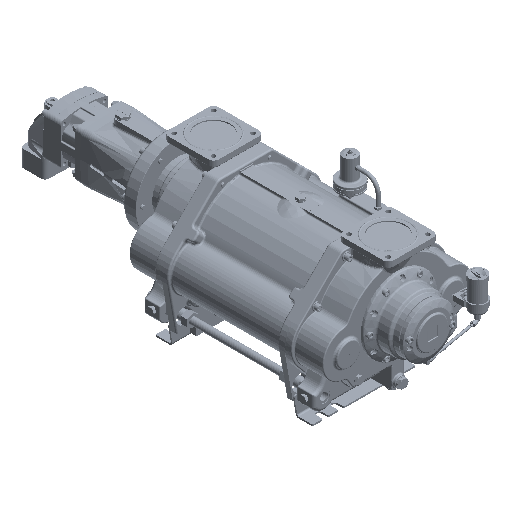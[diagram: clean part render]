
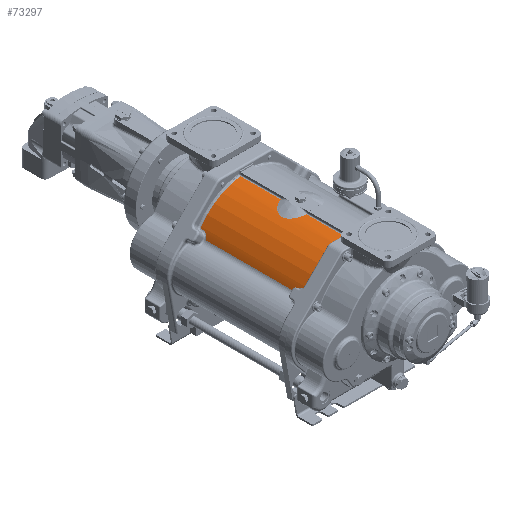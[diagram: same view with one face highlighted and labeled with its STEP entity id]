
A CAD part, isometric view. The second image highlights one B-rep face of the part: STEP entity #73297.
In plain terms, the highlighted cylindrical face has radius 180.5 mm (diameter 361 mm), a partial arc.
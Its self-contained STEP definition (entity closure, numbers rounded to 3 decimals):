
#5325=FACE_OUTER_BOUND('',#9757,.T.);
#9757=EDGE_LOOP('',(#48093,#48094,#48095,#48096,#48097,#48098,#48099,#48100,
#48101,#48102,#48103,#48104,#48105,#48106));
#14662=B_SPLINE_CURVE_WITH_KNOTS('',3,(#107119,#107120,#107121,#107122,
#107123,#107124,#107125,#107126,#107127,#107128,#107129,#107130,#107131),
 .UNSPECIFIED.,.F.,.F.,(4,1,1,1,1,1,1,1,1,1,4),(-12.376,-10.608,
-8.84,-7.956,-7.072,-6.483,
-5.304,-4.715,-3.536,-1.768,
0.),.UNSPECIFIED.);
#14663=B_SPLINE_CURVE_WITH_KNOTS('',3,(#107151,#107152,#107153,#107154,
#107155,#107156),.UNSPECIFIED.,.F.,.F.,(4,1,1,4),(-0.794,-0.567,
-0.34,0.),.UNSPECIFIED.);
#14664=B_SPLINE_CURVE_WITH_KNOTS('',3,(#107160,#107161,#107162,#107163,
#107164,#107165),.UNSPECIFIED.,.F.,.F.,(4,1,1,4),(0.,1.028,1.714,
2.399),.UNSPECIFIED.);
#14665=B_SPLINE_CURVE_WITH_KNOTS('',3,(#107173,#107174,#107175,#107176,
#107177,#107178,#107179),.UNSPECIFIED.,.F.,.F.,(4,1,1,1,4),(0.,0.686,
1.028,1.714,2.399),.UNSPECIFIED.);
#14666=B_SPLINE_CURVE_WITH_KNOTS('',3,(#107183,#107184,#107185,#107186,
#107187,#107188,#107189),.UNSPECIFIED.,.F.,.F.,(4,1,1,1,4),(-0.794,
-0.567,-0.34,-0.227,0.),
 .UNSPECIFIED.);
#16573=CIRCLE('',#79141,180.5);
#16574=CIRCLE('',#79142,180.5);
#16575=CIRCLE('',#79143,180.5);
#16576=CIRCLE('',#79144,180.5);
#20185=LINE('',#107143,#24914);
#20186=LINE('',#107147,#24915);
#20187=LINE('',#107158,#24916);
#20188=LINE('',#107169,#24917);
#20189=LINE('',#107181,#24918);
#24914=VECTOR('',#87132,10.);
#24915=VECTOR('',#87137,10.);
#24916=VECTOR('',#87140,10.);
#24917=VECTOR('',#87143,10.);
#24918=VECTOR('',#87146,10.);
#29766=VERTEX_POINT('',#107116);
#29767=VERTEX_POINT('',#107118);
#29769=VERTEX_POINT('',#107142);
#29770=VERTEX_POINT('',#107146);
#29771=VERTEX_POINT('',#107148);
#29772=VERTEX_POINT('',#107150);
#29773=VERTEX_POINT('',#107157);
#29774=VERTEX_POINT('',#107159);
#29775=VERTEX_POINT('',#107166);
#29776=VERTEX_POINT('',#107168);
#29777=VERTEX_POINT('',#107170);
#29778=VERTEX_POINT('',#107172);
#29779=VERTEX_POINT('',#107180);
#29780=VERTEX_POINT('',#107182);
#36915=EDGE_CURVE('',#29766,#29767,#14662,.T.);
#36921=EDGE_CURVE('',#29767,#29769,#20185,.T.);
#36923=EDGE_CURVE('',#29770,#29766,#20186,.T.);
#36924=EDGE_CURVE('',#29771,#29770,#16573,.T.);
#36925=EDGE_CURVE('',#29772,#29771,#14663,.T.);
#36926=EDGE_CURVE('',#29773,#29772,#20187,.T.);
#36927=EDGE_CURVE('',#29774,#29773,#14664,.T.);
#36928=EDGE_CURVE('',#29775,#29774,#16574,.T.);
#36929=EDGE_CURVE('',#29776,#29775,#20188,.T.);
#36930=EDGE_CURVE('',#29777,#29776,#16575,.T.);
#36931=EDGE_CURVE('',#29778,#29777,#14665,.T.);
#36932=EDGE_CURVE('',#29779,#29778,#20189,.T.);
#36933=EDGE_CURVE('',#29780,#29779,#14666,.T.);
#36934=EDGE_CURVE('',#29769,#29780,#16576,.T.);
#48093=ORIENTED_EDGE('',*,*,#36915,.F.);
#48094=ORIENTED_EDGE('',*,*,#36923,.F.);
#48095=ORIENTED_EDGE('',*,*,#36924,.F.);
#48096=ORIENTED_EDGE('',*,*,#36925,.F.);
#48097=ORIENTED_EDGE('',*,*,#36926,.F.);
#48098=ORIENTED_EDGE('',*,*,#36927,.F.);
#48099=ORIENTED_EDGE('',*,*,#36928,.F.);
#48100=ORIENTED_EDGE('',*,*,#36929,.F.);
#48101=ORIENTED_EDGE('',*,*,#36930,.F.);
#48102=ORIENTED_EDGE('',*,*,#36931,.F.);
#48103=ORIENTED_EDGE('',*,*,#36932,.F.);
#48104=ORIENTED_EDGE('',*,*,#36933,.F.);
#48105=ORIENTED_EDGE('',*,*,#36934,.F.);
#48106=ORIENTED_EDGE('',*,*,#36921,.F.);
#69515=CYLINDRICAL_SURFACE('',#79140,180.5);
#73297=ADVANCED_FACE('',(#5325),#69515,.T.);
#79140=AXIS2_PLACEMENT_3D('',#107145,#87135,#87136);
#79141=AXIS2_PLACEMENT_3D('',#107149,#87138,#87139);
#79142=AXIS2_PLACEMENT_3D('',#107167,#87141,#87142);
#79143=AXIS2_PLACEMENT_3D('',#107171,#87144,#87145);
#79144=AXIS2_PLACEMENT_3D('',#107190,#87147,#87148);
#87132=DIRECTION('',(0.,0.,-1.));
#87135=DIRECTION('center_axis',(0.,0.,
-1.));
#87136=DIRECTION('ref_axis',(-0.891,0.454,0.));
#87137=DIRECTION('',(0.,0.,-1.));
#87138=DIRECTION('center_axis',(0.,0.,
1.));
#87139=DIRECTION('ref_axis',(0.525,0.851,0.));
#87140=DIRECTION('',(0.,0.,1.));
#87141=DIRECTION('center_axis',(0.,0.,
1.));
#87142=DIRECTION('ref_axis',(0.89,0.456,0.));
#87143=DIRECTION('',(0.,0.,1.));
#87144=DIRECTION('center_axis',(0.,0.,
-1.));
#87145=DIRECTION('ref_axis',(0.89,0.456,0.));
#87146=DIRECTION('',(0.,0.,1.));
#87147=DIRECTION('center_axis',(0.,0.,
-1.));
#87148=DIRECTION('ref_axis',(0.525,0.851,0.));
#107116=CARTESIAN_POINT('',(22.624,179.077,41.985));
#107118=CARTESIAN_POINT('',(22.624,179.077,-41.985));
#107119=CARTESIAN_POINT('Ctrl Pts',(22.624,179.077,41.985));
#107120=CARTESIAN_POINT('Ctrl Pts',(28.152,178.378,40.358));
#107121=CARTESIAN_POINT('Ctrl Pts',(38.793,176.504,35.838));
#107122=CARTESIAN_POINT('Ctrl Pts',(49.975,173.518,26.651));
#107123=CARTESIAN_POINT('Ctrl Pts',(56.498,171.447,17.041));
#107124=CARTESIAN_POINT('Ctrl Pts',(59.357,170.465,9.751));
#107125=CARTESIAN_POINT('Ctrl Pts',(60.856,169.931,1.017));
#107126=CARTESIAN_POINT('Ctrl Pts',(60.17,170.181,-6.931));
#107127=CARTESIAN_POINT('Ctrl Pts',(56.969,171.287,-16.172));
#107128=CARTESIAN_POINT('Ctrl Pts',(50.726,173.316,-26.042));
#107129=CARTESIAN_POINT('Ctrl Pts',(38.789,176.506,-35.837));
#107130=CARTESIAN_POINT('Ctrl Pts',(28.152,178.378,-40.358));
#107131=CARTESIAN_POINT('Ctrl Pts',(22.624,179.077,-41.985));
#107142=CARTESIAN_POINT('',(22.624,179.077,-172.));
#107143=CARTESIAN_POINT('',(22.624,179.077,0.));
#107145=CARTESIAN_POINT('Origin',(0.,0.,0.));
#107146=CARTESIAN_POINT('',(22.624,179.077,172.));
#107147=CARTESIAN_POINT('',(22.624,179.077,0.));
#107148=CARTESIAN_POINT('',(149.447,101.222,172.));
#107149=CARTESIAN_POINT('Origin',(0.,0.,
172.));
#107150=CARTESIAN_POINT('',(152.176,97.071,167.));
#107151=CARTESIAN_POINT('Ctrl Pts',(152.176,97.071,167.));
#107152=CARTESIAN_POINT('Ctrl Pts',(152.176,97.071,167.756));
#107153=CARTESIAN_POINT('Ctrl Pts',(151.988,97.366,169.264));
#107154=CARTESIAN_POINT('Ctrl Pts',(151.078,98.78,171.358));
#107155=CARTESIAN_POINT('Ctrl Pts',(150.065,100.309,172.));
#107156=CARTESIAN_POINT('Ctrl Pts',(149.447,101.222,172.));
#107157=CARTESIAN_POINT('',(152.176,97.071,162.));
#107158=CARTESIAN_POINT('',(152.176,97.071,0.));
#107159=CARTESIAN_POINT('',(159.757,84.011,147.));
#107160=CARTESIAN_POINT('Ctrl Pts',(159.757,84.011,147.));
#107161=CARTESIAN_POINT('Ctrl Pts',(158.205,86.963,147.));
#107162=CARTESIAN_POINT('Ctrl Pts',(155.458,91.808,148.855));
#107163=CARTESIAN_POINT('Ctrl Pts',(152.749,96.178,155.153));
#107164=CARTESIAN_POINT('Ctrl Pts',(152.176,97.071,159.715));
#107165=CARTESIAN_POINT('Ctrl Pts',(152.176,97.071,162.));
#107166=CARTESIAN_POINT('',(160.817,81.965,147.));
#107167=CARTESIAN_POINT('Origin',(0.,0.,
147.));
#107168=CARTESIAN_POINT('',(160.817,81.965,-147.));
#107169=CARTESIAN_POINT('',(160.817,81.965,0.));
#107170=CARTESIAN_POINT('',(159.757,84.011,-147.));
#107171=CARTESIAN_POINT('Origin',(0.,0.,
-147.));
#107172=CARTESIAN_POINT('',(152.176,97.071,-162.));
#107173=CARTESIAN_POINT('Ctrl Pts',(152.176,97.071,-162.));
#107174=CARTESIAN_POINT('Ctrl Pts',(152.176,97.071,-159.715));
#107175=CARTESIAN_POINT('Ctrl Pts',(152.609,96.399,-156.293));
#107176=CARTESIAN_POINT('Ctrl Pts',(154.234,93.784,-151.487));
#107177=CARTESIAN_POINT('Ctrl Pts',(156.572,89.879,-147.964));
#107178=CARTESIAN_POINT('Ctrl Pts',(158.722,85.979,-147.));
#107179=CARTESIAN_POINT('Ctrl Pts',(159.757,84.011,-147.));
#107180=CARTESIAN_POINT('',(152.176,97.071,-167.));
#107181=CARTESIAN_POINT('',(152.176,97.071,0.));
#107182=CARTESIAN_POINT('',(149.447,101.222,-172.));
#107183=CARTESIAN_POINT('Ctrl Pts',(149.447,101.222,-172.));
#107184=CARTESIAN_POINT('Ctrl Pts',(149.859,100.613,-172.));
#107185=CARTESIAN_POINT('Ctrl Pts',(150.676,99.39,-171.665));
#107186=CARTESIAN_POINT('Ctrl Pts',(151.489,98.141,-170.482));
#107187=CARTESIAN_POINT('Ctrl Pts',(152.035,97.293,-168.887));
#107188=CARTESIAN_POINT('Ctrl Pts',(152.176,97.071,-167.756));
#107189=CARTESIAN_POINT('Ctrl Pts',(152.176,97.071,-167.));
#107190=CARTESIAN_POINT('Origin',(0.,0.,
-172.));
